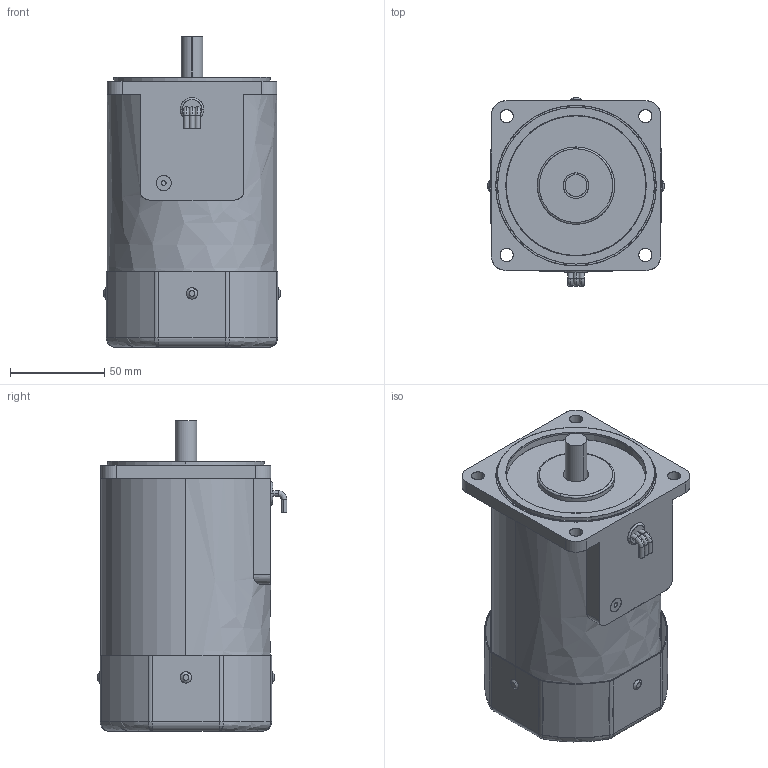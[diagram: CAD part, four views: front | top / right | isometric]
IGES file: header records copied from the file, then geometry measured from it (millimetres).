
Start section: SolidWorks IGES file using analytic representation for surfaces
Bounding box: 94 x 100.5 x 164.5 mm (x, y, z)
Surface area: 136254.7 mm2 (no closed solid volume)
Topology: 0 solids, 0 shells, 210 faces, 3788 edges, 3772 vertices
Faces by surface type: revolution 108, bspline 102
